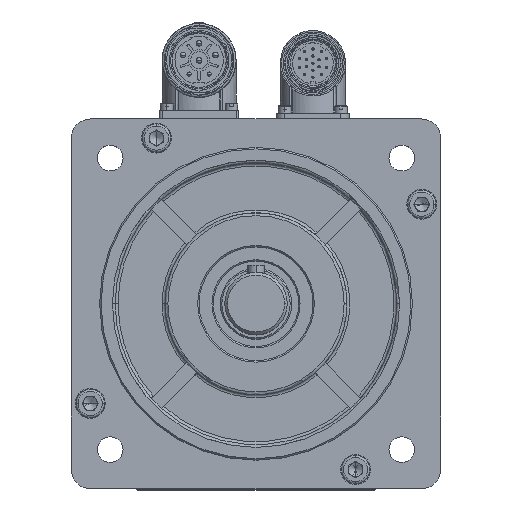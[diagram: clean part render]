
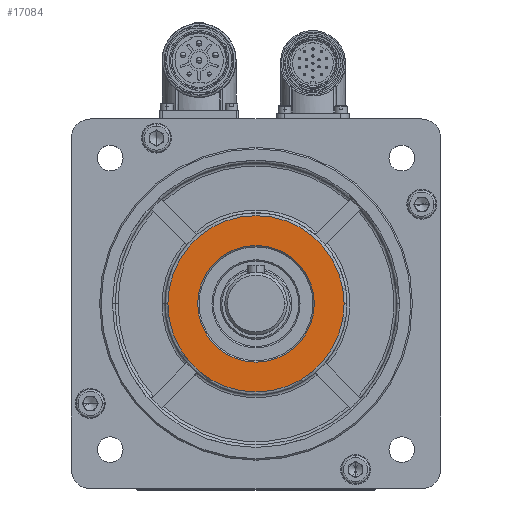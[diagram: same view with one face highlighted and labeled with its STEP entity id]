
A CAD part, top view. The second image highlights one B-rep face of the part: STEP entity #17084.
In plain terms, the highlighted planar face has unit normal (0, 0, 1).
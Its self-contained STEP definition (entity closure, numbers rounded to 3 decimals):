
#1074 = DIRECTION ( 'NONE',  ( -1., 0., 0. ) ) ;
#2812 = EDGE_LOOP ( 'NONE', ( #38253, #65858 ) ) ;
#2964 = CARTESIAN_POINT ( 'NONE',  ( -31., 0., 30.5 ) ) ;
#3225 = EDGE_CURVE ( 'NONE', #56374, #18418, #38901, .T. ) ;
#4087 = DIRECTION ( 'NONE',  ( 0., 0., -1. ) ) ;
#4881 = CARTESIAN_POINT ( 'NONE',  ( 0., 0., 30.5 ) ) ;
#5181 = AXIS2_PLACEMENT_3D ( 'NONE', #58702, #4087, #42467 ) ;
#8960 = FACE_OUTER_BOUND ( 'NONE', #22973, .T. ) ;
#10833 = DIRECTION ( 'NONE',  ( -1., 0., 0. ) ) ;
#11335 = PLANE ( 'NONE',  #16765 ) ;
#16765 = AXIS2_PLACEMENT_3D ( 'NONE', #50192, #22854, #1074 ) ;
#17084 = ADVANCED_FACE ( 'NONE', ( #8960, #47564 ), #11335, .F. ) ;
#18418 = VERTEX_POINT ( 'NONE', #29337 ) ;
#18657 = EDGE_CURVE ( 'NONE', #63173, #29258, #50552, .T. ) ;
#20210 = AXIS2_PLACEMENT_3D ( 'NONE', #4881, #32343, #10833 ) ;
#22854 = DIRECTION ( 'NONE',  ( 0., 0., -1. ) ) ;
#22973 = EDGE_LOOP ( 'NONE', ( #38470, #40612 ) ) ;
#23556 = DIRECTION ( 'NONE',  ( 0., 0., -1. ) ) ;
#24981 = CARTESIAN_POINT ( 'NONE',  ( 31., 0., 30.5 ) ) ;
#26274 = CIRCLE ( 'NONE', #20210, 31. ) ;
#29258 = VERTEX_POINT ( 'NONE', #2964 ) ;
#29337 = CARTESIAN_POINT ( 'NONE',  ( 20.5, 0., 30.5 ) ) ;
#32343 = DIRECTION ( 'NONE',  ( 0., 0., 1. ) ) ;
#33467 = DIRECTION ( 'NONE',  ( -1., 0., 0. ) ) ;
#37865 = CARTESIAN_POINT ( 'NONE',  ( -20.5, 0., 30.5 ) ) ;
#38253 = ORIENTED_EDGE ( 'NONE', *, *, #66036, .T. ) ;
#38470 = ORIENTED_EDGE ( 'NONE', *, *, #50466, .T. ) ;
#38901 = CIRCLE ( 'NONE', #5181, 20.5 ) ;
#40612 = ORIENTED_EDGE ( 'NONE', *, *, #18657, .T. ) ;
#40739 = AXIS2_PLACEMENT_3D ( 'NONE', #55625, #49156, #33467 ) ;
#41004 = AXIS2_PLACEMENT_3D ( 'NONE', #50650, #23556, #67655 ) ;
#42467 = DIRECTION ( 'NONE',  ( -1., 0., 0. ) ) ;
#47564 = FACE_BOUND ( 'NONE', #2812, .T. ) ;
#49156 = DIRECTION ( 'NONE',  ( 0., 0., 1. ) ) ;
#50192 = CARTESIAN_POINT ( 'NONE',  ( -58.113, -58.113, 30.5 ) ) ;
#50466 = EDGE_CURVE ( 'NONE', #29258, #63173, #26274, .T. ) ;
#50552 = CIRCLE ( 'NONE', #40739, 31. ) ;
#50650 = CARTESIAN_POINT ( 'NONE',  ( 0., 0., 30.5 ) ) ;
#52702 = CIRCLE ( 'NONE', #41004, 20.5 ) ;
#55625 = CARTESIAN_POINT ( 'NONE',  ( 0., 0., 30.5 ) ) ;
#56374 = VERTEX_POINT ( 'NONE', #37865 ) ;
#58702 = CARTESIAN_POINT ( 'NONE',  ( 0., 0., 30.5 ) ) ;
#63173 = VERTEX_POINT ( 'NONE', #24981 ) ;
#65858 = ORIENTED_EDGE ( 'NONE', *, *, #3225, .T. ) ;
#66036 = EDGE_CURVE ( 'NONE', #18418, #56374, #52702, .T. ) ;
#67655 = DIRECTION ( 'NONE',  ( -1., 0., 0. ) ) ;
